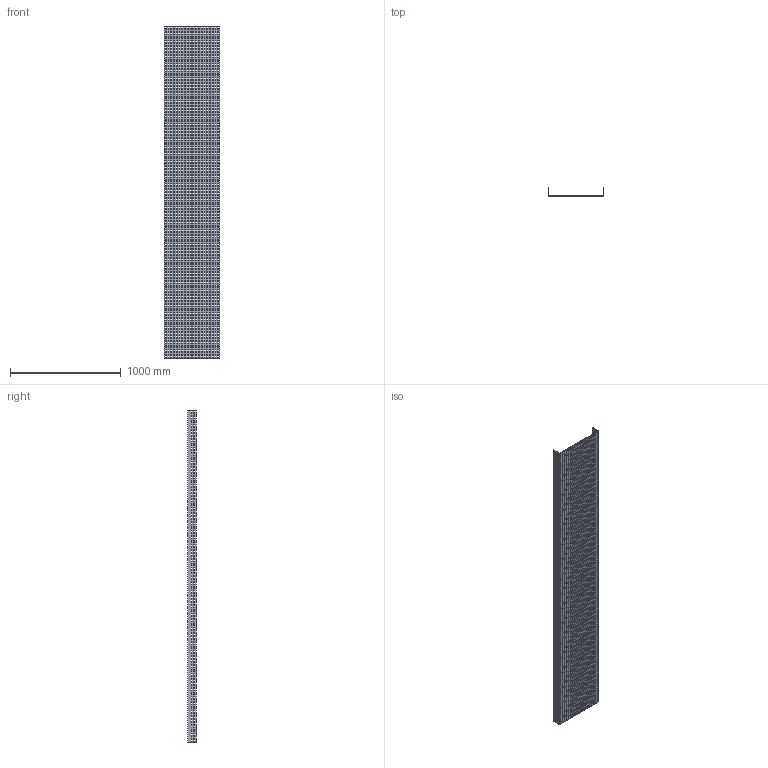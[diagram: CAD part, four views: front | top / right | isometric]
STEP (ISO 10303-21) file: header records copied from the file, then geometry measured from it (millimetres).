
FILE_DESCRIPTION (( 'STEP AP214' ), '1' );
FILE_NAME ('01F3C500.step', '2025-02-21T13:29:47', ( '' ), ( '' ), 'SwSTEP 2.0', 'SolidWorks 2023', '' );
FILE_SCHEMA (( 'AUTOMOTIVE_DESIGN' ));
Products named in the file (1): 01F3C500
Bounding box: 504 x 79 x 3000 mm (x, y, z)
Volume: 5819100 mm3; surface area: 3737857 mm2
Topology: 1 solids, 1 shells, 6922 faces, 20760 edges, 13840 vertices
Faces by surface type: plane 6922
Entity records: 235319 total; most frequent: CARTESIAN_POINT 41523, ORIENTED_EDGE 41520, DIRECTION 34606, VECTOR 20760, LINE 20760, EDGE_CURVE 20760, VERTEX_POINT 13840, EDGE_LOOP 10378
